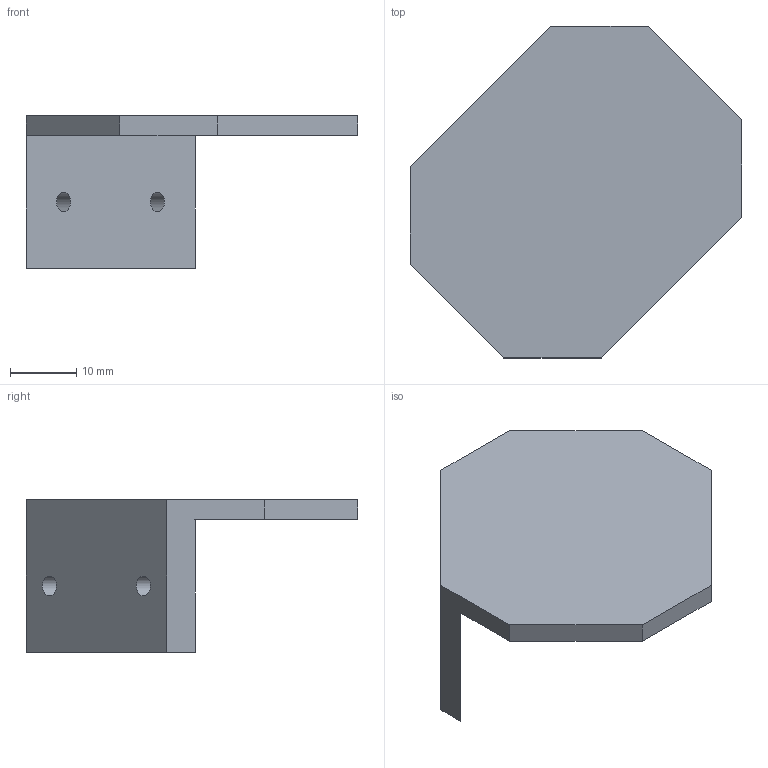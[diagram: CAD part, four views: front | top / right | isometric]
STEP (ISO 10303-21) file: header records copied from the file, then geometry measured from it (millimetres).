
FILE_DESCRIPTION(/* description */ ('STEP AP242 Edition 2','CAx-IF Rec.Pracs.---Representation and Presentation of Product Manufacturing Information (PMI)---4.0---2014-10-13','CAx-IF Rec.Pracs.---3D Tessellated Geometry---0.4---2014-09-14','2;1','CAx-IF Rec.Pracs.---User Defined Attributes---1.5---2016-08-15'),/* implementation_level */ '2;1');
FILE_NAME(/* name */ 'HIRO posing assembly - Part 1 (6)',/* time_stamp */ '2026-11-04T05:15:21Z',/* author */ (''),/* organization */ (''),/* preprocessor_version */ 'ST-DEVELOPER v20',/* originating_system */ 'ONSHAPE BY PTC INC, 1.223',/* authorisation */ ' ');
FILE_SCHEMA (('AP242_MANAGED_MODEL_BASED_3D_ENGINEERING_MIM_LF { 1 0 10303 442 3 1 4 }'));
Length unit declared in the file: metre
Products named in the file (1): Part 1
Bounding box: 50 x 50 x 23 mm (x, y, z)
Volume: 7487.6 mm3; surface area: 5693.7 mm2
Topology: 1 solids, 1 shells, 14 faces, 38 edges, 26 vertices
Faces by surface type: plane 12, cylinder 2
Full cylindrical faces by diameter (mm): 3 x2
Entity records: 444 total; most frequent: CARTESIAN_POINT 73, ORIENTED_EDGE 68, DIRECTION 68, EDGE_CURVE 34, LINE 30, VECTOR 30, VERTEX_POINT 24, EDGE_LOOP 20
